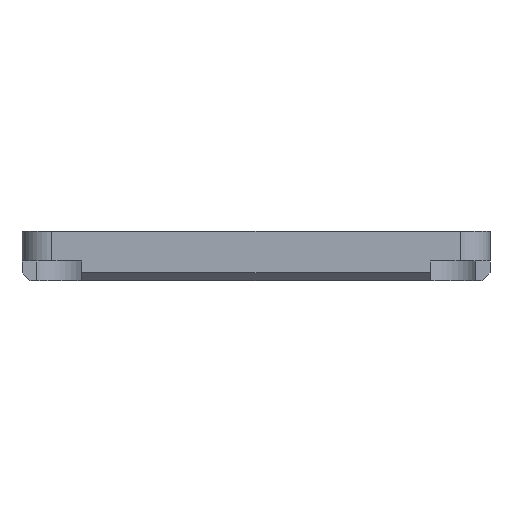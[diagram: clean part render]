
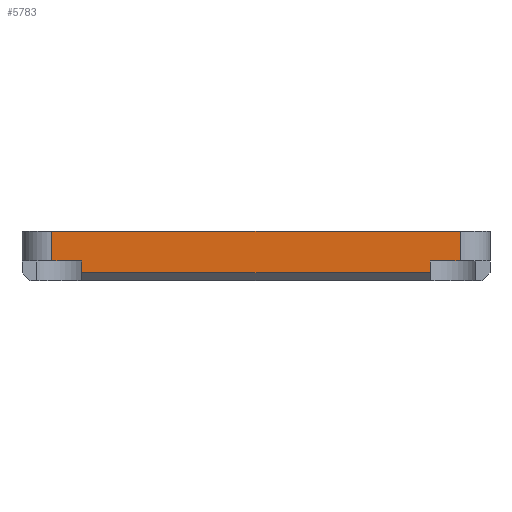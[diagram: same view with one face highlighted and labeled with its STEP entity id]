
A CAD part, left-side view. The second image highlights one B-rep face of the part: STEP entity #5783.
In plain terms, the highlighted planar face has unit normal (-1, 0, 0).
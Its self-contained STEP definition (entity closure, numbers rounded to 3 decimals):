
#1424=DIRECTION('',(0.,1.,0.));
#1425=VECTOR('',#1424,41.);
#1426=CARTESIAN_POINT('',(-45.,-20.5,4.));
#1427=LINE('',#1426,#1425);
#1809=DIRECTION('',(0.,0.,-1.));
#1810=VECTOR('',#1809,3.);
#1811=CARTESIAN_POINT('',(-45.,20.5,4.));
#1812=LINE('',#1811,#1810);
#1836=DIRECTION('',(0.,-1.,0.));
#1837=VECTOR('',#1836,35.);
#1838=CARTESIAN_POINT('',(-45.,17.5,-0.2));
#1839=LINE('',#1838,#1837);
#1840=DIRECTION('',(0.,0.,1.));
#1841=VECTOR('',#1840,1.2);
#1842=CARTESIAN_POINT('',(-45.,17.5,-0.2));
#1843=LINE('',#1842,#1841);
#1844=DIRECTION('',(0.,1.,0.));
#1845=VECTOR('',#1844,3.);
#1846=CARTESIAN_POINT('',(-45.,17.5,1.));
#1847=LINE('',#1846,#1845);
#1848=DIRECTION('',(0.,1.,0.));
#1849=VECTOR('',#1848,3.);
#1850=CARTESIAN_POINT('',(-45.,-20.5,1.));
#1851=LINE('',#1850,#1849);
#1852=DIRECTION('',(0.,0.,-1.));
#1853=VECTOR('',#1852,1.2);
#1854=CARTESIAN_POINT('',(-45.,-17.5,1.));
#1855=LINE('',#1854,#1853);
#1934=DIRECTION('',(0.,0.,1.));
#1935=VECTOR('',#1934,3.);
#1936=CARTESIAN_POINT('',(-45.,-20.5,1.));
#1937=LINE('',#1936,#1935);
#3159=CARTESIAN_POINT('',(-45.,-20.5,4.));
#3160=VERTEX_POINT('',#3159);
#3161=CARTESIAN_POINT('',(-45.,20.5,4.));
#3162=VERTEX_POINT('',#3161);
#3196=CARTESIAN_POINT('',(-45.,-17.5,1.));
#3198=VERTEX_POINT('',#3196);
#3199=CARTESIAN_POINT('',(-45.,-20.5,1.));
#3200=VERTEX_POINT('',#3199);
#3237=CARTESIAN_POINT('',(-45.,20.5,1.));
#3238=VERTEX_POINT('',#3237);
#3239=CARTESIAN_POINT('',(-45.,17.5,1.));
#3240=VERTEX_POINT('',#3239);
#3863=CARTESIAN_POINT('',(-45.,-17.5,-0.2));
#3865=VERTEX_POINT('',#3863);
#3869=CARTESIAN_POINT('',(-45.,17.5,-0.2));
#3870=VERTEX_POINT('',#3869);
#5764=CARTESIAN_POINT('',(-45.,23.5,0.));
#5765=DIRECTION('',(-1.,0.,0.));
#5766=DIRECTION('',(0.,-1.,0.));
#5767=AXIS2_PLACEMENT_3D('',#5764,#5765,#5766);
#5768=PLANE('',#5767);
#5770=ORIENTED_EDGE('',*,*,#5769,.F.);
#5772=ORIENTED_EDGE('',*,*,#5771,.T.);
#5773=ORIENTED_EDGE('',*,*,#5747,.T.);
#5774=ORIENTED_EDGE('',*,*,#5735,.F.);
#5775=ORIENTED_EDGE('',*,*,#4999,.F.);
#5777=ORIENTED_EDGE('',*,*,#5776,.F.);
#5778=ORIENTED_EDGE('',*,*,#5204,.T.);
#5780=ORIENTED_EDGE('',*,*,#5779,.T.);
#5781=EDGE_LOOP('',(#5770,#5772,#5773,#5774,#5775,#5777,#5778,#5780));
#5782=FACE_OUTER_BOUND('',#5781,.F.);
#5783=ADVANCED_FACE('',(#5782),#5768,.T.);
#4999=EDGE_CURVE('',#3160,#3162,#1427,.T.);
#5204=EDGE_CURVE('',#3200,#3198,#1851,.T.);
#5735=EDGE_CURVE('',#3162,#3238,#1812,.T.);
#5747=EDGE_CURVE('',#3240,#3238,#1847,.T.);
#5769=EDGE_CURVE('',#3870,#3865,#1839,.T.);
#5771=EDGE_CURVE('',#3870,#3240,#1843,.T.);
#5776=EDGE_CURVE('',#3200,#3160,#1937,.T.);
#5779=EDGE_CURVE('',#3198,#3865,#1855,.T.);
